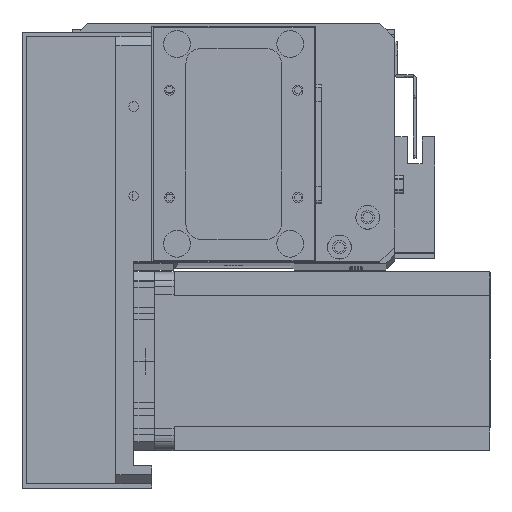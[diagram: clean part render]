
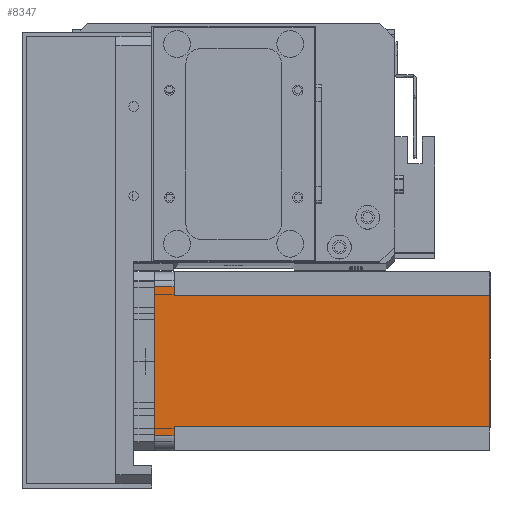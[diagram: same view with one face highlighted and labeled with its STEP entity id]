
A CAD part, top view. The second image highlights one B-rep face of the part: STEP entity #8347.
In plain terms, the highlighted planar face has unit normal (0, 0, 1) as drawn and (0, 1, 0) by its records, which use the part's own axes.
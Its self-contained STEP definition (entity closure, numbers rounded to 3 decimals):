
#154 = DIRECTION ( 'NONE',  ( -1., 0., 0. ) ) ;
#1035 = CARTESIAN_POINT ( 'NONE',  ( 52., 60., -6.5 ) ) ;
#1280 = VERTEX_POINT ( 'NONE', #5276 ) ;
#1602 = CARTESIAN_POINT ( 'NONE',  ( 0., 60., -112.5 ) ) ;
#2156 = LINE ( 'NONE', #8823, #26885 ) ;
#2574 = ORIENTED_EDGE ( 'NONE', *, *, #19412, .F. ) ;
#2773 = ORIENTED_EDGE ( 'NONE', *, *, #25475, .F. ) ;
#3119 = CARTESIAN_POINT ( 'NONE',  ( 52., 60., -6.5 ) ) ;
#3182 = CARTESIAN_POINT ( 'NONE',  ( 5., 60., -6.5 ) ) ;
#3611 = ORIENTED_EDGE ( 'NONE', *, *, #14416, .T. ) ;
#3726 = VECTOR ( 'NONE', #154, 1000. ) ;
#3740 = ORIENTED_EDGE ( 'NONE', *, *, #27473, .F. ) ;
#4102 = CARTESIAN_POINT ( 'NONE',  ( 55., 60., 0. ) ) ;
#4278 = PLANE ( 'NONE',  #7013 ) ;
#4326 = CARTESIAN_POINT ( 'NONE',  ( 8., 60., -6.5 ) ) ;
#4531 = LINE ( 'NONE', #12648, #3726 ) ;
#4886 = ORIENTED_EDGE ( 'NONE', *, *, #18664, .T. ) ;
#5276 = CARTESIAN_POINT ( 'NONE',  ( 5., 60., 0. ) ) ;
#6360 = DIRECTION ( 'NONE',  ( 0., 0., 1. ) ) ;
#6382 = ORIENTED_EDGE ( 'NONE', *, *, #20576, .T. ) ;
#6487 = DIRECTION ( 'NONE',  ( 0., 1., 0. ) ) ;
#7013 = AXIS2_PLACEMENT_3D ( 'NONE', #1602, #6487, #6360 ) ;
#7075 = CARTESIAN_POINT ( 'NONE',  ( 5., 60., -112.5 ) ) ;
#7098 = FACE_OUTER_BOUND ( 'NONE', #17263, .T. ) ;
#8195 = VECTOR ( 'NONE', #28225, 1000. ) ;
#8347 = ADVANCED_FACE ( 'NONE', ( #7098 ), #4278, .T. ) ;
#8505 = LINE ( 'NONE', #22512, #20553 ) ;
#8587 = VECTOR ( 'NONE', #28746, 1000. ) ;
#8823 = CARTESIAN_POINT ( 'NONE',  ( 0., 60., -112.5 ) ) ;
#11244 = VERTEX_POINT ( 'NONE', #3119 ) ;
#12648 = CARTESIAN_POINT ( 'NONE',  ( 8., 60., -6.5 ) ) ;
#13122 = CARTESIAN_POINT ( 'NONE',  ( 55., 60., -112.5 ) ) ;
#13296 = CARTESIAN_POINT ( 'NONE',  ( 55., 60., -6.5 ) ) ;
#13606 = DIRECTION ( 'NONE',  ( 1., 0., 0. ) ) ;
#14168 = VERTEX_POINT ( 'NONE', #22217 ) ;
#14246 = VERTEX_POINT ( 'NONE', #17846 ) ;
#14416 = EDGE_CURVE ( 'NONE', #14168, #14246, #2156, .T. ) ;
#15036 = CARTESIAN_POINT ( 'NONE',  ( 0., 60., 0. ) ) ;
#15542 = DIRECTION ( 'NONE',  ( 0., 0., -1. ) ) ;
#16682 = LINE ( 'NONE', #13122, #22131 ) ;
#16878 = VECTOR ( 'NONE', #26468, 1000. ) ;
#17263 = EDGE_LOOP ( 'NONE', ( #2574, #26029, #3740, #22440, #3611, #2773, #6382, #4886 ) ) ;
#17846 = CARTESIAN_POINT ( 'NONE',  ( 8., 60., -112.5 ) ) ;
#18595 = VECTOR ( 'NONE', #13606, 1000. ) ;
#18664 = EDGE_CURVE ( 'NONE', #30768, #1280, #26284, .T. ) ;
#19412 = EDGE_CURVE ( 'NONE', #30372, #1280, #23006, .T. ) ;
#20138 = VERTEX_POINT ( 'NONE', #13296 ) ;
#20553 = VECTOR ( 'NONE', #24767, 1000. ) ;
#20576 = EDGE_CURVE ( 'NONE', #22688, #30768, #4531, .T. ) ;
#22131 = VECTOR ( 'NONE', #15542, 1000. ) ;
#22217 = CARTESIAN_POINT ( 'NONE',  ( 52., 60., -112.5 ) ) ;
#22440 = ORIENTED_EDGE ( 'NONE', *, *, #24087, .F. ) ;
#22512 = CARTESIAN_POINT ( 'NONE',  ( 8., 60., -112.5 ) ) ;
#22688 = VERTEX_POINT ( 'NONE', #4326 ) ;
#23006 = LINE ( 'NONE', #15036, #16878 ) ;
#23149 = DIRECTION ( 'NONE',  ( -1., 0., 0. ) ) ;
#23153 = EDGE_CURVE ( 'NONE', #30372, #20138, #16682, .T. ) ;
#24087 = EDGE_CURVE ( 'NONE', #14168, #11244, #27367, .T. ) ;
#24669 = LINE ( 'NONE', #1035, #18595 ) ;
#24767 = DIRECTION ( 'NONE',  ( 0., 0., -1. ) ) ;
#25475 = EDGE_CURVE ( 'NONE', #22688, #14246, #8505, .T. ) ;
#26029 = ORIENTED_EDGE ( 'NONE', *, *, #23153, .T. ) ;
#26284 = LINE ( 'NONE', #7075, #8195 ) ;
#26468 = DIRECTION ( 'NONE',  ( -1., 0., 0. ) ) ;
#26885 = VECTOR ( 'NONE', #23149, 1000. ) ;
#27367 = LINE ( 'NONE', #30937, #8587 ) ;
#27473 = EDGE_CURVE ( 'NONE', #11244, #20138, #24669, .T. ) ;
#28225 = DIRECTION ( 'NONE',  ( 0., 0., 1. ) ) ;
#28746 = DIRECTION ( 'NONE',  ( 0., 0., 1. ) ) ;
#30372 = VERTEX_POINT ( 'NONE', #4102 ) ;
#30768 = VERTEX_POINT ( 'NONE', #3182 ) ;
#30937 = CARTESIAN_POINT ( 'NONE',  ( 52., 60., -112.5 ) ) ;
